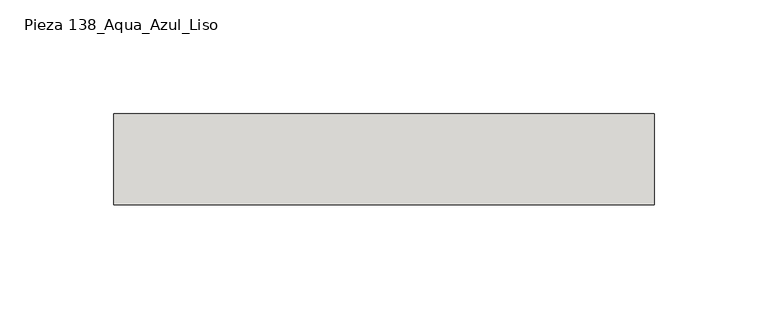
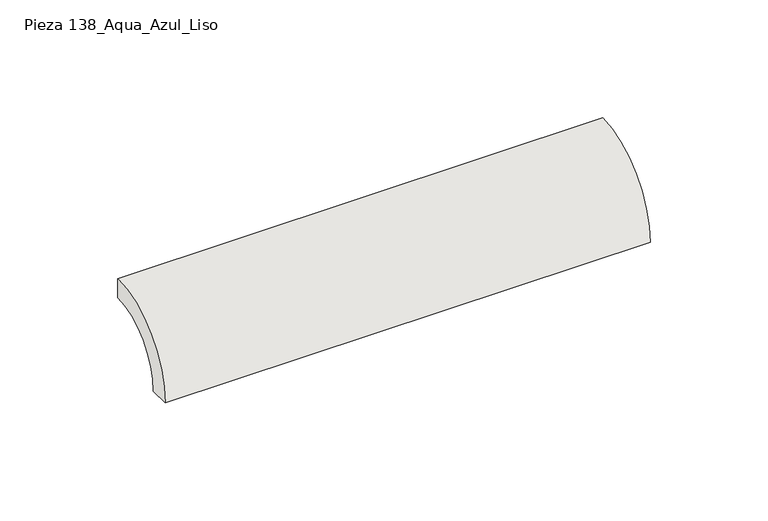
"""IFC4 building model written with IfcOpenShell, lengths in millimetres: slab geometry, ROSA GRES_138 : Pieza 138_Aqua_Azul_Liso."""

from ifc_helpers import new_model, si_unit, point, frame, frame_2d, origin, origin_2d, place, context, project, spatial, polyline, circle_curve, trimmed, segment, composite_curve, outline, extrude, source, transform, mapped, element, save


def pieza_138_aqua_azul_liso_dbd9f64d(model_context):
    return source(origin(), model_context, "Body", "SweptSolid", [
        extrude(outline(composite_curve([segment(polyline([(0.0, 40.0), (0.0, 30.0265886)]), True, "CONTINUOUS"), segment(trimmed(circle_curve(frame_2d((-0.0044453, 0.0044453)), 30.0221435), [point((0.0, 30.0265886))], [point((-30.0265886, 0.0))], True, "CARTESIAN"), True, "CONTINUOUS"), segment(polyline([(-30.0265886, 0.0), (-40.0, 0.0)]), True, "CONTINUOUS"), segment(trimmed(circle_curve(origin_2d(), 40.0), [point((-40.0, 0.0))], [point((0.0, 40.0))], False, "CARTESIAN"), True, "CONTINUOUS")], self_intersect=False)), frame((0.0, 0.0, 0.0), z_axis=(1.0, 0.0, 0.0), x_axis=(0.0, 1.0, 0.0)), (0.0, 0.0, 1.0), 237.3223765),
    ])


if __name__ == "__main__":
    model = new_model("IFC4")
    model_context = context("Model", 3, world=origin())
    ifc_project = project(units=[si_unit("LENGTHUNIT", "METRE", prefix="MILLI")], contexts=[model_context])
    site = spatial("IfcSite", under=ifc_project)
    building = spatial("IfcBuilding", under=site)
    placement = place(None, origin())
    pieza_138_aqua_azul_liso_shape = pieza_138_aqua_azul_liso_dbd9f64d(model_context)
    element("IfcSlab", 1, ObjectType="ROSA GRES_138 : Pieza 138_Aqua_Azul_Liso", at=placement, inside=building, context=model_context, shape_type="MappedRepresentation", body=[
        mapped(pieza_138_aqua_azul_liso_shape, transform((0.0, 0.0, 0.0), x_axis=(1.0, 0.0, 0.0), y_axis=(0.0, 1.0, 0.0), z_axis=(0.0, 0.0, 1.0))),
    ])
    save(model, "model.ifc")
